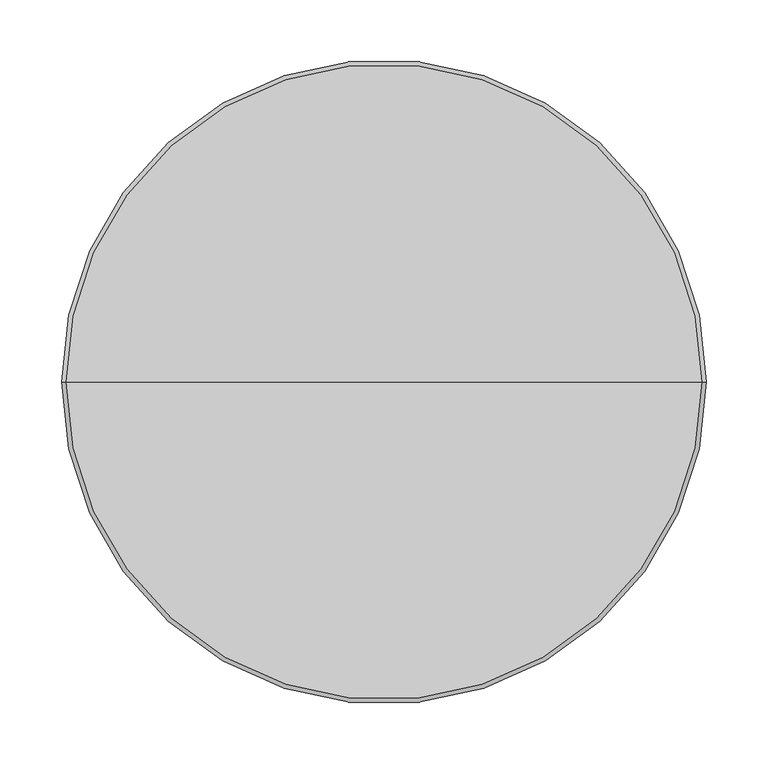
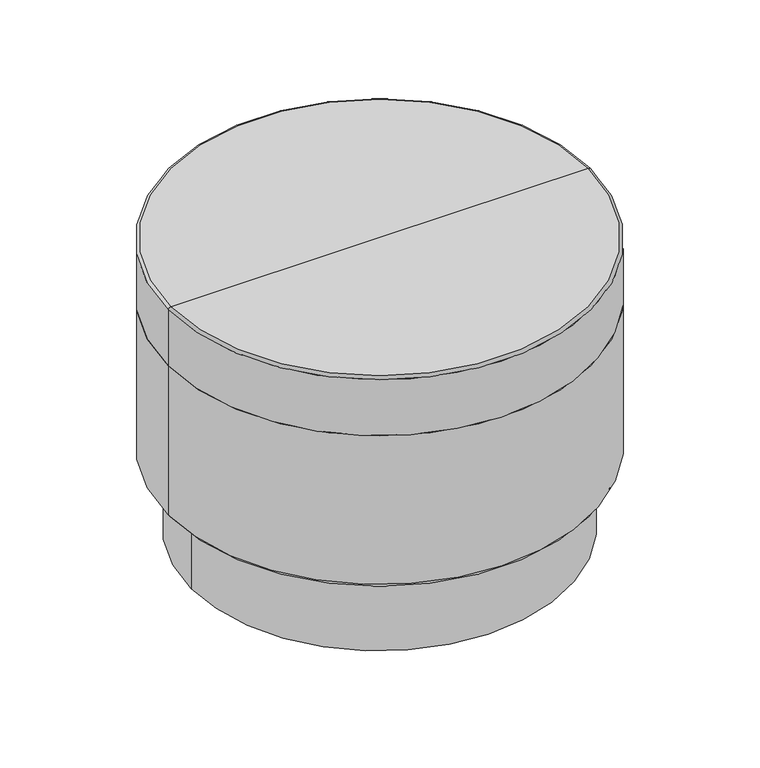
"""IFC4 building model written with IfcOpenShell, lengths in millimetres: furniture geometry, StanceHC-Drum_Table-Plinth_Base : 3-DRT20D16-U-PL."""

from ifc_helpers import new_model, si_unit, point, frame, frame_2d, origin, origin_with_axes, place, context, project, spatial, circle_curve, ellipse_curve, trimmed, segment, composite_curve, outline, extrude, source, transform, mapped, element, save
from ifc_brep_helpers import plane_surface, cylinder_surface, revolved_surface, advanced_brep


def furniture_cdd20899(model_context):
    return source(origin(), model_context, "Body", "SolidModel", [
        extrude(outline(composite_curve([segment(trimmed(circle_curve(frame_2d((0.0, 199.3164845)), 12.7), [point((-12.7, 199.3164845))], [point((12.7, 199.3164845))], False, "CARTESIAN"), True, "CONTINUOUS"), segment(trimmed(circle_curve(frame_2d((0.0, 199.3164845)), 12.7), [point((12.7, 199.3164845))], [point((-12.7, 199.3164845))], False, "CARTESIAN"), True, "CONTINUOUS")], self_intersect=False)), origin_with_axes(), (0.0, 0.0, 1.0), 4.7625),
        extrude(outline(composite_curve([segment(trimmed(circle_curve(frame_2d((0.0, -199.3164845)), 12.7), [point((-12.7, -199.3164845))], [point((12.7, -199.3164845))], False, "CARTESIAN"), True, "CONTINUOUS"), segment(trimmed(circle_curve(frame_2d((0.0, -199.3164845)), 12.7), [point((12.7, -199.3164845))], [point((-12.7, -199.3164845))], False, "CARTESIAN"), True, "CONTINUOUS")], self_intersect=False)), origin_with_axes(), (0.0, 0.0, 1.0), 4.7625),
        extrude(outline(composite_curve([segment(trimmed(circle_curve(frame_2d((203.1996404, 0.0)), 12.7), [point((190.4996404, 0.0))], [point((215.8996404, 0.0))], False, "CARTESIAN"), True, "CONTINUOUS"), segment(trimmed(circle_curve(frame_2d((203.1996404, 0.0)), 12.7), [point((215.8996404, 0.0))], [point((190.4996404, 0.0))], False, "CARTESIAN"), True, "CONTINUOUS")], self_intersect=False)), origin_with_axes(), (0.0, 0.0, 1.0), 4.7625),
        extrude(outline(composite_curve([segment(trimmed(circle_curve(frame_2d((-203.1996404, 0.0)), 12.7), [point((-215.8996404, 0.0))], [point((-190.4996404, 0.0))], False, "CARTESIAN"), True, "CONTINUOUS"), segment(trimmed(circle_curve(frame_2d((-203.1996404, 0.0)), 12.7), [point((-190.4996404, 0.0))], [point((-215.8996404, 0.0))], False, "CARTESIAN"), True, "CONTINUOUS")], self_intersect=False)), origin_with_axes(), (0.0, 0.0, 1.0), 4.7625),
        advanced_brep(
        [(-255.5542756, 0.0, 106.3625), (255.5542756, 0.0, 106.3625), (231.7746404, 0.0, 106.3625), (-231.7746404, 0.0, 106.3625), (-255.5542756, 0.0, 111.125), (255.5542756, 0.0, 111.125), (0.0, 0.0, 111.125), (-231.7746404, 0.0, 4.7625), (231.7746404, 0.0, 4.7625), (0.0, 0.0, 4.7625)],
        [
            (0, 1, circle_curve(frame((0.0, 0.0, 106.3625), z_axis=(0.0, 0.0, -1.0), x_axis=(1.0, 0.0, 0.0)), 255.5542756)),
            (1, 2),
            (2, 3, circle_curve(frame((0.0, 0.0, 106.3625), z_axis=(0.0, 0.0, 1.0), x_axis=(1.0, 0.0, 0.0)), 231.7746404)),
            (3, 0),
            (1, 0, circle_curve(frame((0.0, 0.0, 106.3625), z_axis=(0.0, 0.0, -1.0), x_axis=(1.0, 0.0, 0.0)), 255.5542756)),
            (3, 2, circle_curve(frame((0.0, 0.0, 106.3625), z_axis=(0.0, 0.0, 1.0), x_axis=(1.0, 0.0, 0.0)), 231.7746404)),
            (4, 5, circle_curve(frame((0.0, 0.0, 111.125), z_axis=(0.0, 0.0, -1.0), x_axis=(1.0, 0.0, 0.0)), 255.5542756)),
            (5, 1, circle_curve(frame((255.5542756, 0.0, 108.74375), z_axis=(0.0, 1.0, 0.0), x_axis=(1.0, 0.0, 0.0)), 2.38125)),
            (0, 4, circle_curve(frame((-255.5542756, 0.0, 108.74375), z_axis=(0.0, 1.0, 0.0), x_axis=(-1.0, 0.0, 0.0)), 2.38125)),
            (5, 4, circle_curve(frame((0.0, 0.0, 111.125), z_axis=(0.0, 0.0, -1.0), x_axis=(1.0, 0.0, 0.0)), 255.5542756)),
            (6, 5),
            (4, 6),
            (7, 8, circle_curve(frame((0.0, 0.0, 4.7625), z_axis=(0.0, 0.0, -1.0), x_axis=(1.0, 0.0, 0.0)), 231.7746404)),
            (8, 9),
            (9, 7),
            (8, 7, circle_curve(frame((0.0, 0.0, 4.7625), z_axis=(0.0, 0.0, -1.0), x_axis=(1.0, 0.0, 0.0)), 231.7746404)),
            (2, 8),
            (7, 3),
        ],
        [
            plane_surface(frame((0.0, 0.0, 106.3625), z_axis=(0.0, 0.0, -1.0), x_axis=(1.0, 0.0, 0.0))),
            revolved_surface(trimmed(ellipse_curve(frame((255.5542756, 0.0, 108.74375), z_axis=(0.0, -1.0, 0.0), x_axis=(1.0, 0.0, 0.0)), 2.38125, 2.38125), [point((255.5542756, 0.0, 106.3625))], [point((255.5542756, 0.0, 111.125))], True, "CARTESIAN"), (0.0, 0.0, 165.1), (0.0, 0.0, 1.0)),
            plane_surface(frame((0.0, 0.0, 111.125), z_axis=(0.0, 0.0, 1.0), x_axis=(1.0, 0.0, 0.0))),
            plane_surface(frame((0.0, 0.0, 4.7625), z_axis=(0.0, 0.0, -1.0), x_axis=(1.0, 0.0, 0.0))),
            cylinder_surface(frame((0.0, 0.0, 165.1), z_axis=(0.0, 0.0, 1.0), x_axis=(1.0, 0.0, 0.0)), 231.7746404),
        ],
        [
            (0, [[1, 2, 3, 4]]),
            (0, [[5, -4, 6, -2]]),
            (1, [[7, 8, -1, 9]]),
            (1, [[10, -9, -5, -8]]),
            (2, [[11, -7, 12]]),
            (2, [[-12, -10, -11]]),
            (3, [[13, 14, 15]]),
            (3, [[16, -15, -14]]),
            (4, [[-3, 17, -13, 18]]),
            (4, [[-6, -18, -16, -17]]),
        ],
    ),
        advanced_brep(
        [(0.0, 0.0, 304.8), (260.35, 0.0, 304.8), (-260.35, 0.0, 304.8), (-260.35, 0.0, 111.125), (260.35, 0.0, 111.125), (0.0, 0.0, 111.125)],
        [
            (0, 1),
            (1, 2, circle_curve(frame((0.0, 0.0, 304.8), z_axis=(0.0, 0.0, 1.0), x_axis=(1.0, 0.0, 0.0)), 260.35)),
            (2, 0),
            (2, 1, circle_curve(frame((0.0, 0.0, 304.8), z_axis=(0.0, 0.0, 1.0), x_axis=(1.0, 0.0, 0.0)), 260.35)),
            (3, 4, circle_curve(frame((0.0, 0.0, 111.125), z_axis=(0.0, 0.0, -1.0), x_axis=(1.0, 0.0, 0.0)), 260.35)),
            (4, 5),
            (5, 3),
            (4, 3, circle_curve(frame((0.0, 0.0, 111.125), z_axis=(0.0, 0.0, -1.0), x_axis=(1.0, 0.0, 0.0)), 260.35)),
            (1, 4),
            (3, 2),
        ],
        [
            plane_surface(frame((0.0, 0.0, 304.8), z_axis=(0.0, 0.0, 1.0), x_axis=(1.0, 0.0, 0.0))),
            plane_surface(frame((0.0, 0.0, 111.125), z_axis=(0.0, 0.0, -1.0), x_axis=(1.0, 0.0, 0.0))),
            cylinder_surface(frame((0.0, 0.0, 457.2), z_axis=(0.0, 0.0, 1.0), x_axis=(1.0, 0.0, 0.0)), 260.35),
        ],
        [
            (0, [[1, 2, 3]]),
            (0, [[-3, 4, -1]]),
            (1, [[5, 6, 7]]),
            (1, [[8, -7, -6]]),
            (2, [[-2, 9, -5, 10]]),
            (2, [[-4, -10, -8, -9]]),
        ],
    ),
        advanced_brep(
        [(-260.35, 0.0, 304.8), (260.35, 0.0, 304.8), (0.0, 0.0, 304.8), (-260.35, 0.0, 377.8764933), (260.35, 0.0, 377.8764933), (-257.2264933, 0.0, 381.0), (257.2264933, 0.0, 381.0), (0.0, 0.0, 381.0)],
        [
            (0, 1, circle_curve(frame((0.0, 0.0, 304.8), z_axis=(0.0, 0.0, -1.0), x_axis=(1.0, 0.0, 0.0)), 260.35)),
            (1, 2),
            (2, 0),
            (1, 0, circle_curve(frame((0.0, 0.0, 304.8), z_axis=(0.0, 0.0, -1.0), x_axis=(1.0, 0.0, 0.0)), 260.35)),
            (3, 4, circle_curve(frame((0.0, 0.0, 377.8764933), z_axis=(0.0, 0.0, -1.0), x_axis=(1.0, 0.0, 0.0)), 260.35)),
            (4, 1),
            (0, 3),
            (4, 3, circle_curve(frame((0.0, 0.0, 377.8764933), z_axis=(0.0, 0.0, -1.0), x_axis=(1.0, 0.0, 0.0)), 260.35)),
            (5, 6, circle_curve(frame((0.0, 0.0, 381.0), z_axis=(0.0, 0.0, -1.0), x_axis=(1.0, 0.0, 0.0)), 257.2264933)),
            (6, 4, circle_curve(frame((257.2264933, 0.0, 377.8764933), z_axis=(0.0, 1.0, 0.0), x_axis=(1.0, 0.0, 0.0)), 3.1235067)),
            (3, 5, circle_curve(frame((-257.2264933, 0.0, 377.8764933), z_axis=(0.0, 1.0, 0.0), x_axis=(-1.0, 0.0, 0.0)), 3.1235067)),
            (6, 5, circle_curve(frame((0.0, 0.0, 381.0), z_axis=(0.0, 0.0, -1.0), x_axis=(1.0, 0.0, 0.0)), 257.2264933)),
            (7, 6),
            (5, 7),
        ],
        [
            plane_surface(frame((0.0, 0.0, 304.8), z_axis=(0.0, 0.0, -1.0), x_axis=(1.0, 0.0, 0.0))),
            cylinder_surface(frame((0.0, 0.0, 476.25), z_axis=(0.0, 0.0, 1.0), x_axis=(1.0, 0.0, 0.0)), 260.35),
            revolved_surface(trimmed(ellipse_curve(frame((257.2264933, 0.0, 377.8764933), z_axis=(0.0, -1.0, 0.0), x_axis=(1.0, 0.0, 0.0)), 3.1235067, 3.1235067), [point((260.35, 0.0, 377.8764933))], [point((257.2264933, 0.0, 381.0))], True, "CARTESIAN"), (0.0, 0.0, 476.25), (0.0, 0.0, 1.0)),
            plane_surface(frame((0.0, 0.0, 381.0), z_axis=(0.0, 0.0, 1.0), x_axis=(1.0, 0.0, 0.0))),
        ],
        [
            (0, [[1, 2, 3]]),
            (0, [[4, -3, -2]]),
            (1, [[5, 6, -1, 7]]),
            (1, [[8, -7, -4, -6]]),
            (2, [[9, 10, -5, 11]]),
            (2, [[12, -11, -8, -10]]),
            (3, [[13, -9, 14]]),
            (3, [[-14, -12, -13]]),
        ],
    ),
    ])


if __name__ == "__main__":
    model = new_model("IFC4")
    model_context = context("Model", 3, world=origin())
    ifc_project = project(units=[si_unit("LENGTHUNIT", "METRE", prefix="MILLI")], contexts=[model_context])
    site = spatial("IfcSite", under=ifc_project)
    building = spatial("IfcBuilding", under=site)
    placement = place(None, origin())
    furniture_shape = furniture_cdd20899(model_context)
    element("IfcFurniture", 1, ObjectType="StanceHC-Drum_Table-Plinth_Base : 3-DRT20D16-U-PL", at=placement, inside=building, context=model_context, shape_type="MappedRepresentation", body=[
        mapped(furniture_shape, transform((0.0, 0.0, 0.0), x_axis=(1.0, 0.0, 0.0), y_axis=(0.0, 1.0, 0.0), z_axis=(0.0, 0.0, 1.0))),
    ])
    save(model, "model.ifc")
